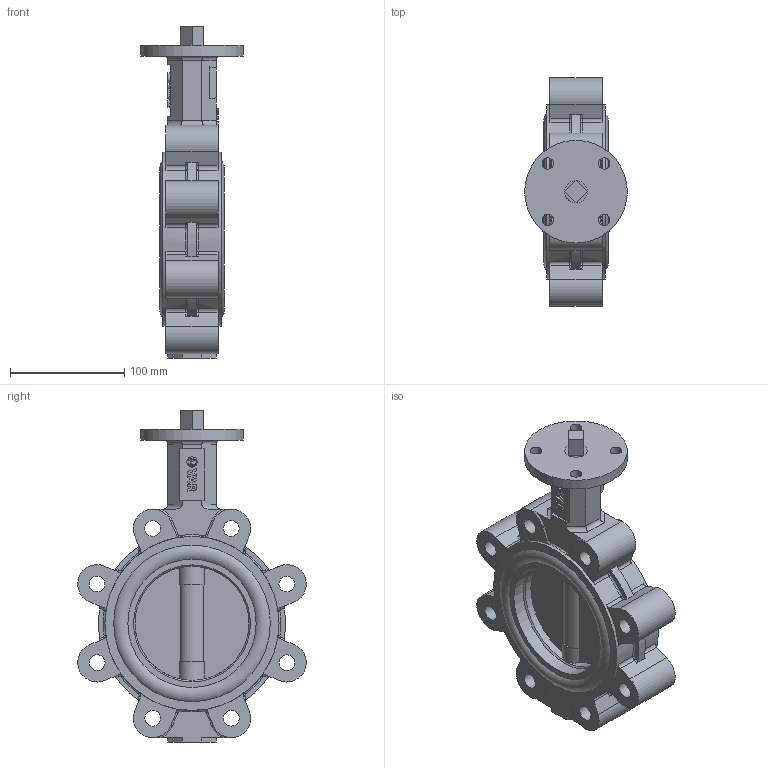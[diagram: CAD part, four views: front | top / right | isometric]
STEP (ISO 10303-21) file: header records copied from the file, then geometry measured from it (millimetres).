
FILE_DESCRIPTION(('STEP AP242'), '1');
FILE_NAME('Ïîâîðîòíûé çàòâîð ïîä ýëåêòðîïðèâîä', '', ('UNSPECIFIED'), ('UNSPECIFIED'), 'C3D Converter', 'C3D Toolkit', '');
FILE_SCHEMA(('AP242_MANAGED_MODEL_BASED_3D_ENGINEERING_MIM_LF { 1 0 10303 442 1 1 4 }'));
Length unit declared in the file: millimetre
Products named in the file (6): П
Assembly tree (6 placements, depth 2):
  (unnamed)
    (unnamed)
    П  x2
    (unnamed)
    (unnamed)
    (unnamed)
Bounding box: 90 x 200.27 x 291 mm (x, y, z)
Volume: 1182136.5 mm3; surface area: 250302.9 mm2
Topology: 6 solids, 6 shells, 572 faces, 1484 edges, 956 vertices
Faces by surface type: plane 231, cylinder 140, extrusion 139, torus 58, cone 4
Full cylindrical faces by diameter (mm): 9.137 x1, 10 x4, 13.835 x8, 14 x5, 15.4 x1, 19.799 x5, 24.51 x4, 90 x1, 100 x1, 102.5 x2, 112.5 x2, 124.917 x4, 137.333 x4, 152.533 x2
Entity records: 22185 total; most frequent: CARTESIAN_POINT 6517, ORIENTED_EDGE 2852, DIRECTION 2448, EDGE_CURVE 1426, VERTEX_POINT 951, VECTOR 866, AXIS2_PLACEMENT_3D 791, LINE 727
